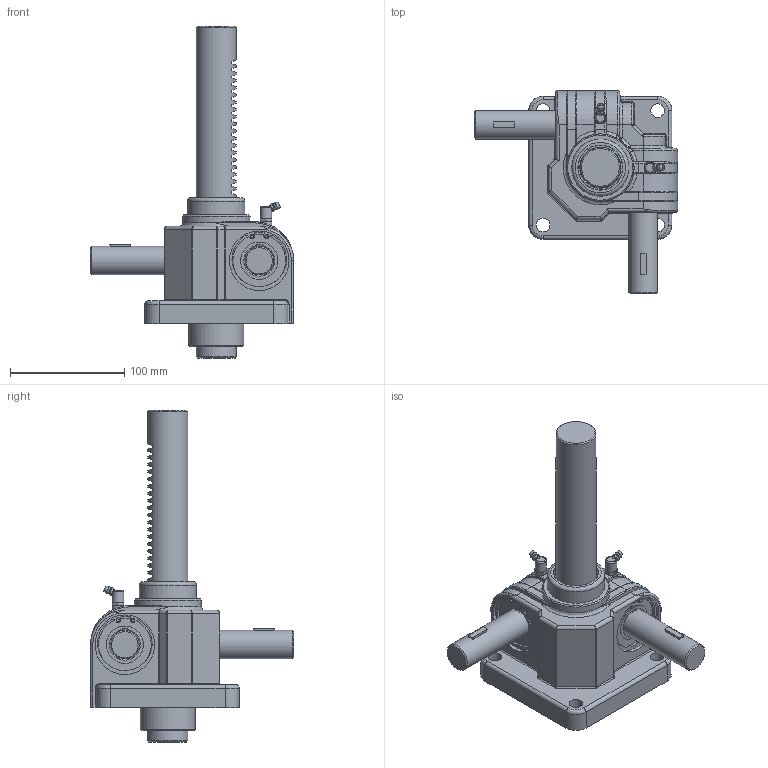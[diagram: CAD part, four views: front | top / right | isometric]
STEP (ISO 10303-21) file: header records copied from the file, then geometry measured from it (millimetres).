
FILE_DESCRIPTION(('STEP AP203'),'1');
FILE_NAME('SP1-1500U-150ST.stp','2022-06-15T05:08:22',(' '),(' '),'Spatial InterOp 3D',' ',' ');
FILE_SCHEMA(('CONFIG_CONTROL_DESIGN'));
Length unit declared in the file: millimetre
Products named in the file (14): SP1-1500U-150ST; Rack Gear(SP-1500); Body-Part; b6205zz; SnapRing-55Pie; Nipple; Key; Shaft(SP1-1500); Gear Box(NSP-1500); RJ05-4SCJ-610X600-100ST_CAP; LABEL-B.1; ___; 파트18; __ 
Assembly tree (18 placements, depth 6):
  SP1-1500U-150ST
    Rack Gear(SP-1500)
    Body-Part
      b6205zz  x2
      SnapRing-55Pie  x2
      Nipple  x2
      Key  x2
      Shaft(SP1-1500)  x2
      Gear Box(NSP-1500)
      __ 
        ___
          RJ05-4SCJ-610X600-100ST_CAP
            LABEL-B.1
          파트18
Bounding box: 177.5 x 177.72 x 290 mm (x, y, z)
Volume: 823228.4 mm3; surface area: 214748.6 mm2
Topology: 19 solids, 19 shells, 2593 faces, 7172 edges, 4639 vertices
Faces by surface type: plane 1899, cylinder 419, torus 108, bspline 56, revolution 42, extrusion 38, sphere 22, cone 9
Full cylindrical faces by diameter (mm): 3.087 x4, 4.8 x2, 8 x2, 9.886 x2, 10 x2, 12 x4, 16 x1, 25 x6, 28 x2, 32.5 x4, 35 x1, 36 x1, 39 x3, 39.4 x1, 41 x2, 46.1 x4, 48 x1, 50 x3, 52 x6, 55 x2, 59 x1
Entity records: 85397 total; most frequent: CARTESIAN_POINT 22547, ORIENTED_EDGE 13440, DIRECTION 11762, EDGE_CURVE 6720, VECTOR 5445, LINE 5426, VERTEX_POINT 4408, AXIS2_PLACEMENT_3D 3148
